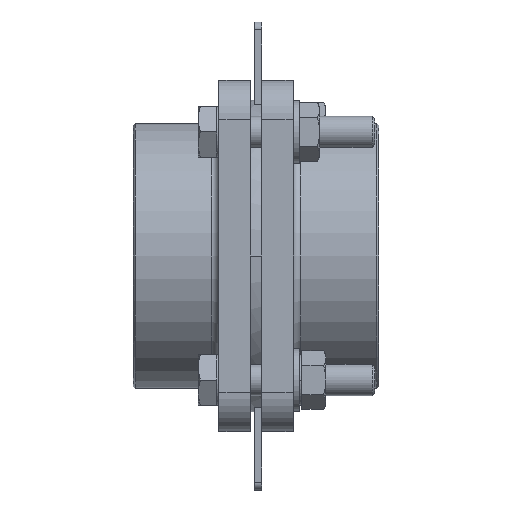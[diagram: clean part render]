
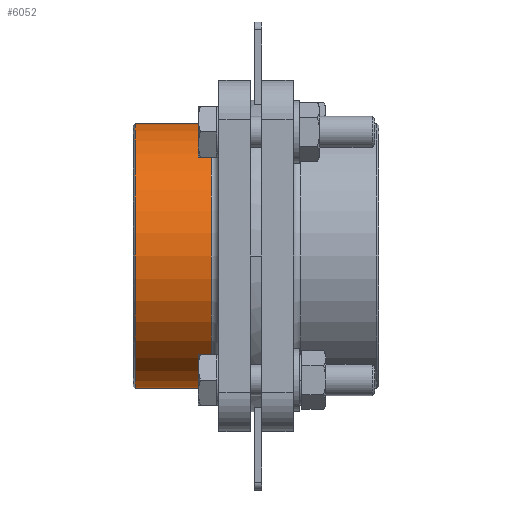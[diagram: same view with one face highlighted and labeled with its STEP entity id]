
A CAD part, left-side view. The second image highlights one B-rep face of the part: STEP entity #6052.
In plain terms, the highlighted cylindrical face has radius 34 mm (diameter 68 mm), a partial arc.
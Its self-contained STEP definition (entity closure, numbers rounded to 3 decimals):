
#182 = DIRECTION ( 'NONE',  ( 0., 0., -1. ) ) ;
#208 = DIRECTION ( 'NONE',  ( 0., 0., 1. ) ) ;
#260 = CARTESIAN_POINT ( 'NONE',  ( 1.279, -5.945, 3.364 ) ) ;
#880 = ORIENTED_EDGE ( 'NONE', *, *, #3253, .F. ) ;
#1560 = AXIS2_PLACEMENT_3D ( 'NONE', #260, #1806, #5596 ) ;
#1806 = DIRECTION ( 'NONE',  ( 0., -1., 0. ) ) ;
#2124 = ORIENTED_EDGE ( 'NONE', *, *, #9313, .T. ) ;
#2227 = VERTEX_POINT ( 'NONE', #8498 ) ;
#2930 = ORIENTED_EDGE ( 'NONE', *, *, #7250, .T. ) ;
#2972 = CARTESIAN_POINT ( 'NONE',  ( 1.279, 4.055, 37.364 ) ) ;
#3253 = EDGE_CURVE ( 'NONE', #9115, #2227, #7416, .T. ) ;
#3537 = EDGE_LOOP ( 'NONE', ( #5876, #2124, #2930, #880 ) ) ;
#3779 = VERTEX_POINT ( 'NONE', #6304 ) ;
#4478 = LINE ( 'NONE', #5030, #5443 ) ;
#4524 = CYLINDRICAL_SURFACE ( 'NONE', #1560, 34. ) ;
#4656 = LINE ( 'NONE', #5129, #8200 ) ;
#4721 = DIRECTION ( 'NONE',  ( 0., -1., 0. ) ) ;
#4745 = DIRECTION ( 'NONE',  ( 0., -1., 0. ) ) ;
#5030 = CARTESIAN_POINT ( 'NONE',  ( 1.279, -5.945, -30.636 ) ) ;
#5129 = CARTESIAN_POINT ( 'NONE',  ( 1.279, -5.945, 37.364 ) ) ;
#5385 = CIRCLE ( 'NONE', #5997, 34. ) ;
#5443 = VECTOR ( 'NONE', #9582, 1000. ) ;
#5596 = DIRECTION ( 'NONE',  ( 0., 0., -1. ) ) ;
#5749 = VERTEX_POINT ( 'NONE', #6410 ) ;
#5876 = ORIENTED_EDGE ( 'NONE', *, *, #9568, .F. ) ;
#5997 = AXIS2_PLACEMENT_3D ( 'NONE', #9288, #4745, #208 ) ;
#6052 = ADVANCED_FACE ( 'NONE', ( #7282 ), #4524, .T. ) ;
#6304 = CARTESIAN_POINT ( 'NONE',  ( 1.279, 23.555, 37.364 ) ) ;
#6410 = CARTESIAN_POINT ( 'NONE',  ( 1.279, 23.555, -30.636 ) ) ;
#6659 = DIRECTION ( 'NONE',  ( 0., -1., 0. ) ) ;
#7250 = EDGE_CURVE ( 'NONE', #5749, #2227, #4478, .T. ) ;
#7282 = FACE_OUTER_BOUND ( 'NONE', #3537, .T. ) ;
#7416 = CIRCLE ( 'NONE', #8328, 34. ) ;
#8200 = VECTOR ( 'NONE', #6659, 1000. ) ;
#8328 = AXIS2_PLACEMENT_3D ( 'NONE', #9271, #4721, #182 ) ;
#8498 = CARTESIAN_POINT ( 'NONE',  ( 1.279, 4.055, -30.636 ) ) ;
#9115 = VERTEX_POINT ( 'NONE', #2972 ) ;
#9271 = CARTESIAN_POINT ( 'NONE',  ( 1.279, 4.055, 3.364 ) ) ;
#9288 = CARTESIAN_POINT ( 'NONE',  ( 1.279, 23.555, 3.364 ) ) ;
#9313 = EDGE_CURVE ( 'NONE', #3779, #5749, #5385, .T. ) ;
#9568 = EDGE_CURVE ( 'NONE', #3779, #9115, #4656, .T. ) ;
#9582 = DIRECTION ( 'NONE',  ( 0., -1., 0. ) ) ;
